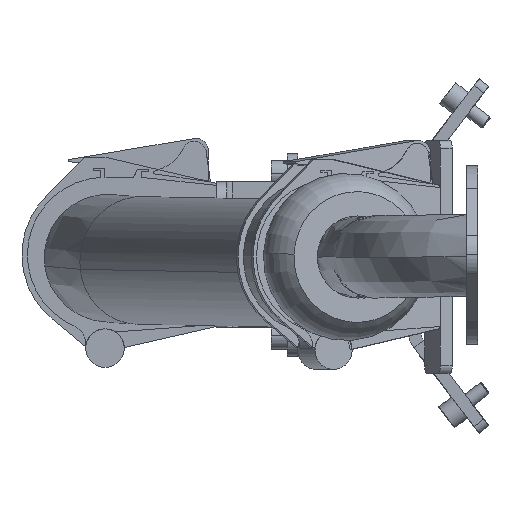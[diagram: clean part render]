
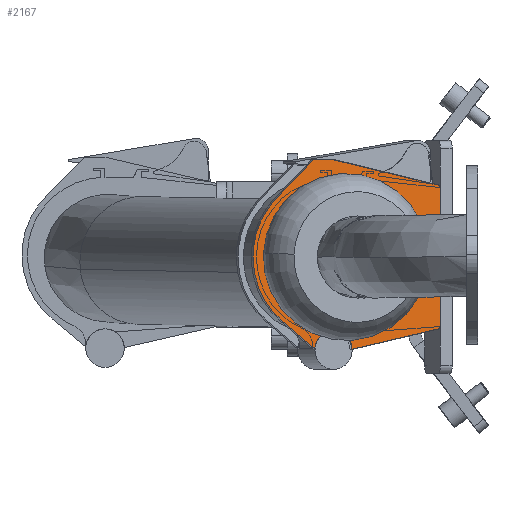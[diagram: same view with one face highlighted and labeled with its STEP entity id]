
A CAD part, left-side view. The second image highlights one B-rep face of the part: STEP entity #2167.
In plain terms, the highlighted planar face has unit normal (-0.966, -0.259, 0).
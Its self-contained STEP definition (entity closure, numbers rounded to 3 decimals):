
#22 = EDGE_CURVE ( 'NONE', #830, #1241, #533, .T. ) ;
#96 = DIRECTION ( 'NONE',  ( -0.2, 0.746, 0.636 ) ) ;
#140 = CARTESIAN_POINT ( 'NONE',  ( 1173.857, 180.772, 2093.661 ) ) ;
#215 = CARTESIAN_POINT ( 'NONE',  ( 1172.575, 185.556, 2132.308 ) ) ;
#224 = CARTESIAN_POINT ( 'NONE',  ( 1176.734, 170.036, 2212.154 ) ) ;
#361 = VECTOR ( 'NONE', #1289, 1000. ) ;
#413 = CARTESIAN_POINT ( 'NONE',  ( 1171.776, 188.538, 2192.781 ) ) ;
#533 =( BOUNDED_CURVE ( )  B_SPLINE_CURVE ( 3, ( #10807, #3289, #5209, #1187 ),
 .UNSPECIFIED., .F., .T. ) 
 B_SPLINE_CURVE_WITH_KNOTS ( ( 4, 4 ),
 ( 1.931, 5.072 ),
 .UNSPECIFIED. ) 
 CURVE ( )  GEOMETRIC_REPRESENTATION_ITEM ( )  RATIONAL_B_SPLINE_CURVE ( ( 1., 0.333, 0.333, 1. ) ) 
 REPRESENTATION_ITEM ( '' )  );
#614 = DIRECTION ( 'NONE',  ( 0., 0., -1. ) ) ;
#658 = EDGE_CURVE ( 'NONE', #3391, #3093, #10093, .T. ) ;
#830 = VERTEX_POINT ( 'NONE', #1621 ) ;
#982 = EDGE_CURVE ( 'NONE', #2021, #7207, #5335, .T. ) ;
#1002 = DIRECTION ( 'NONE',  ( 0.252, -0.942, 0.223 ) ) ;
#1011 = CIRCLE ( 'NONE', #10318, 41. ) ;
#1187 = CARTESIAN_POINT ( 'NONE',  ( 1187.692, 129.139, 2164.94 ) ) ;
#1241 = VERTEX_POINT ( 'NONE', #3381 ) ;
#1289 = DIRECTION ( 'NONE',  ( -0.252, 0.94, 0.228 ) ) ;
#1343 = VERTEX_POINT ( 'NONE', #413 ) ;
#1589 = EDGE_CURVE ( 'NONE', #2861, #3391, #4517, .T. ) ;
#1621 = CARTESIAN_POINT ( 'NONE',  ( 1171.55, 189.381, 2156.029 ) ) ;
#1743 = DIRECTION ( 'NONE',  ( -0.966, -0.259, 0. ) ) ;
#2021 = VERTEX_POINT ( 'NONE', #8862 ) ;
#2100 = VECTOR ( 'NONE', #8212, 1000. ) ;
#2167 = ADVANCED_FACE ( 'NONE', ( #3240, #9071 ), #3127, .F. ) ;
#2206 = CARTESIAN_POINT ( 'NONE',  ( 1179.322, 160.376, 2117.954 ) ) ;
#2255 = CARTESIAN_POINT ( 'NONE',  ( 1179.322, 160.376, 2163.954 ) ) ;
#2274 = EDGE_CURVE ( 'NONE', #1343, #3093, #1011, .T. ) ;
#2281 = CARTESIAN_POINT ( 'NONE',  ( 1176.734, 170.036, 2212.154 ) ) ;
#2776 = CARTESIAN_POINT ( 'NONE',  ( 1171.55, 189.381, 2156.029 ) ) ;
#2845 = CARTESIAN_POINT ( 'NONE',  ( 1171.776, 188.538, 2192.781 ) ) ;
#2861 = VERTEX_POINT ( 'NONE', #8028 ) ;
#2869 = DIRECTION ( 'NONE',  ( -0.966, -0.259, 0. ) ) ;
#2920 = VECTOR ( 'NONE', #7089, 1000. ) ;
#3093 = VERTEX_POINT ( 'NONE', #215 ) ;
#3127 = PLANE ( 'NONE',  #8562 ) ;
#3152 = EDGE_CURVE ( 'NONE', #9703, #2861, #9811, .T. ) ;
#3240 = FACE_BOUND ( 'NONE', #4258, .T. ) ;
#3281 = CARTESIAN_POINT ( 'NONE',  ( 1176.87, 169.529, 2118.641 ) ) ;
#3289 = CARTESIAN_POINT ( 'NONE',  ( 1169.244, 197.989, 2218.396 ) ) ;
#3350 = ORIENTED_EDGE ( 'NONE', *, *, #658, .F. ) ;
#3381 = CARTESIAN_POINT ( 'NONE',  ( 1187.692, 129.139, 2164.94 ) ) ;
#3391 = VERTEX_POINT ( 'NONE', #3281 ) ;
#3398 = DIRECTION ( 'NONE',  ( -0.966, -0.259, 0. ) ) ;
#3416 = ORIENTED_EDGE ( 'NONE', *, *, #4975, .T. ) ;
#3754 = ORIENTED_EDGE ( 'NONE', *, *, #6476, .T. ) ;
#3779 = ORIENTED_EDGE ( 'NONE', *, *, #1589, .F. ) ;
#3934 = CARTESIAN_POINT ( 'NONE',  ( 1179.322, 160.376, 2212.154 ) ) ;
#3966 = EDGE_CURVE ( 'NONE', #8773, #4126, #5638, .T. ) ;
#4126 = VERTEX_POINT ( 'NONE', #224 ) ;
#4208 = VECTOR ( 'NONE', #1002, 1000. ) ;
#4258 = EDGE_LOOP ( 'NONE', ( #5228, #8624 ) ) ;
#4292 = ORIENTED_EDGE ( 'NONE', *, *, #2274, .T. ) ;
#4517 = CIRCLE ( 'NONE', #6455, 9.5 ) ;
#4975 = EDGE_CURVE ( 'NONE', #4126, #1343, #9724, .T. ) ;
#5104 = CARTESIAN_POINT ( 'NONE',  ( 1179.322, 160.376, 2117.954 ) ) ;
#5199 = CARTESIAN_POINT ( 'NONE',  ( 1187.692, 129.139, 2164.94 ) ) ;
#5209 = CARTESIAN_POINT ( 'NONE',  ( 1185.385, 137.748, 2227.308 ) ) ;
#5228 = ORIENTED_EDGE ( 'NONE', *, *, #9096, .T. ) ;
#5335 = LINE ( 'NONE', #7804, #2920 ) ;
#5638 = LINE ( 'NONE', #2281, #2100 ) ;
#5878 = DIRECTION ( 'NONE',  ( 0., 0., -1. ) ) ;
#6441 = DIRECTION ( 'NONE',  ( 0.966, 0.259, 0. ) ) ;
#6455 = AXIS2_PLACEMENT_3D ( 'NONE', #2206, #2869, #8760 ) ;
#6476 = EDGE_CURVE ( 'NONE', #7207, #8773, #7066, .T. ) ;
#6723 =( BOUNDED_CURVE ( )  B_SPLINE_CURVE ( 3, ( #5199, #9325, #140, #2776 ),
 .UNSPECIFIED., .F., .F. ) 
 B_SPLINE_CURVE_WITH_KNOTS ( ( 4, 4 ),
 ( 5.072, 8.214 ),
 .UNSPECIFIED. ) 
 CURVE ( )  GEOMETRIC_REPRESENTATION_ITEM ( )  RATIONAL_B_SPLINE_CURVE ( ( 1., 0.333, 0.333, 1. ) ) 
 REPRESENTATION_ITEM ( '' )  );
#6730 = EDGE_CURVE ( 'NONE', #9703, #2021, #8374, .T. ) ;
#6773 = VECTOR ( 'NONE', #96, 1000. ) ;
#6783 = ORIENTED_EDGE ( 'NONE', *, *, #3966, .T. ) ;
#6946 = CARTESIAN_POINT ( 'NONE',  ( 1181.78, 151.205, 2118.264 ) ) ;
#7066 = LINE ( 'NONE', #10357, #361 ) ;
#7089 = DIRECTION ( 'NONE',  ( 0., 0., 1. ) ) ;
#7207 = VERTEX_POINT ( 'NONE', #8855 ) ;
#7621 = CARTESIAN_POINT ( 'NONE',  ( 1172.575, 185.556, 2132.308 ) ) ;
#7804 = CARTESIAN_POINT ( 'NONE',  ( 1193.557, 107.25, 2199.254 ) ) ;
#8012 = DIRECTION ( 'NONE',  ( -0.182, 0.679, -0.711 ) ) ;
#8028 = CARTESIAN_POINT ( 'NONE',  ( 1179.322, 160.376, 2127.454 ) ) ;
#8212 = DIRECTION ( 'NONE',  ( -0.259, 0.966, 0. ) ) ;
#8319 = ORIENTED_EDGE ( 'NONE', *, *, #982, .T. ) ;
#8374 = LINE ( 'NONE', #9310, #4208 ) ;
#8562 = AXIS2_PLACEMENT_3D ( 'NONE', #2255, #6441, #614 ) ;
#8624 = ORIENTED_EDGE ( 'NONE', *, *, #22, .T. ) ;
#8760 = DIRECTION ( 'NONE',  ( 0., 0., -1. ) ) ;
#8773 = VERTEX_POINT ( 'NONE', #3934 ) ;
#8855 = CARTESIAN_POINT ( 'NONE',  ( 1193.557, 107.25, 2199.254 ) ) ;
#8862 = CARTESIAN_POINT ( 'NONE',  ( 1193.557, 107.25, 2128.654 ) ) ;
#9071 = FACE_OUTER_BOUND ( 'NONE', #9471, .T. ) ;
#9096 = EDGE_CURVE ( 'NONE', #1241, #830, #6723, .T. ) ;
#9181 = ORIENTED_EDGE ( 'NONE', *, *, #6730, .T. ) ;
#9310 = CARTESIAN_POINT ( 'NONE',  ( 1182.01, 150.344, 2118.467 ) ) ;
#9313 = VECTOR ( 'NONE', #8012, 1000. ) ;
#9325 = CARTESIAN_POINT ( 'NONE',  ( 1189.999, 120.53, 2102.573 ) ) ;
#9471 = EDGE_LOOP ( 'NONE', ( #3350, #3779, #10414, #9181, #8319, #3754, #6783, #3416, #4292 ) ) ;
#9703 = VERTEX_POINT ( 'NONE', #6946 ) ;
#9724 = LINE ( 'NONE', #2845, #9313 ) ;
#9811 = CIRCLE ( 'NONE', #10675, 9.5 ) ;
#9999 = DIRECTION ( 'NONE',  ( 0., 0., -1. ) ) ;
#10093 = LINE ( 'NONE', #7621, #6773 ) ;
#10212 = CARTESIAN_POINT ( 'NONE',  ( 1179.322, 160.376, 2163.954 ) ) ;
#10318 = AXIS2_PLACEMENT_3D ( 'NONE', #10212, #1743, #9999 ) ;
#10357 = CARTESIAN_POINT ( 'NONE',  ( 1179.322, 160.376, 2212.154 ) ) ;
#10414 = ORIENTED_EDGE ( 'NONE', *, *, #3152, .F. ) ;
#10675 = AXIS2_PLACEMENT_3D ( 'NONE', #5104, #3398, #5878 ) ;
#10807 = CARTESIAN_POINT ( 'NONE',  ( 1171.55, 189.381, 2156.029 ) ) ;
